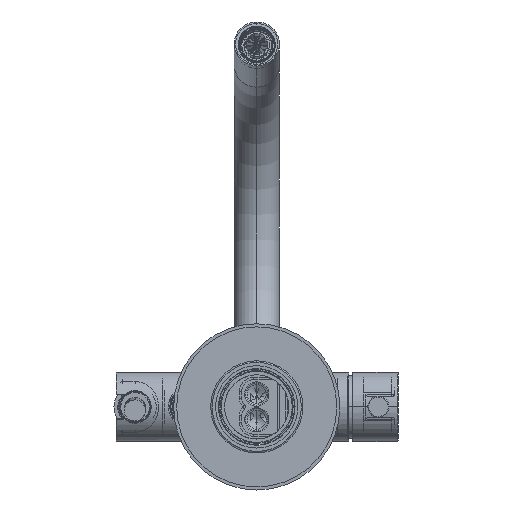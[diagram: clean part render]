
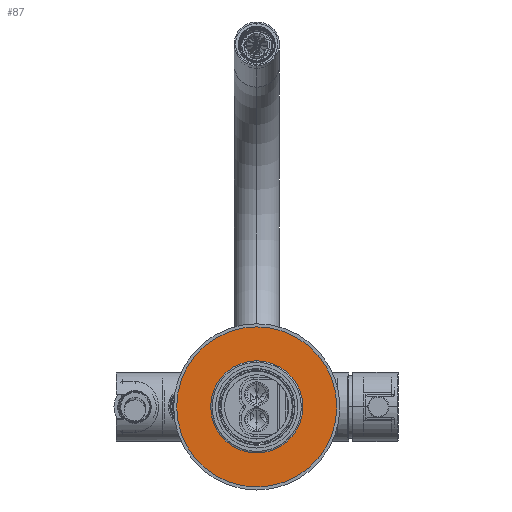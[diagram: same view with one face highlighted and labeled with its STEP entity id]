
A CAD part, front view. The second image highlights one B-rep face of the part: STEP entity #87.
In plain terms, the highlighted planar face has unit normal (0, -1, 0).
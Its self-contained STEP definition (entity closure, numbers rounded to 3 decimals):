
#87 = ADVANCED_FACE('',(#88,#108),#128,.F.);
#88 = FACE_BOUND('',#89,.F.);
#89 = EDGE_LOOP('',(#90,#101));
#90 = ORIENTED_EDGE('',*,*,#91,.T.);
#91 = EDGE_CURVE('',#92,#94,#96,.T.);
#92 = VERTEX_POINT('',#93);
#93 = CARTESIAN_POINT('',(53.,100.,0.));
#94 = VERTEX_POINT('',#95);
#95 = CARTESIAN_POINT('',(-53.,100.,0.));
#96 = CIRCLE('',#97,53.);
#97 = AXIS2_PLACEMENT_3D('',#98,#99,#100);
#98 = CARTESIAN_POINT('',(0.,100.,0.));
#99 = DIRECTION('',(-0.,1.,0.));
#100 = DIRECTION('',(1.,0.,0.));
#101 = ORIENTED_EDGE('',*,*,#102,.T.);
#102 = EDGE_CURVE('',#94,#92,#103,.T.);
#103 = CIRCLE('',#104,53.);
#104 = AXIS2_PLACEMENT_3D('',#105,#106,#107);
#105 = CARTESIAN_POINT('',(0.,100.,0.));
#106 = DIRECTION('',(0.,1.,0.));
#107 = DIRECTION('',(-1.,0.,0.));
#108 = FACE_BOUND('',#109,.F.);
#109 = EDGE_LOOP('',(#110,#121));
#110 = ORIENTED_EDGE('',*,*,#111,.T.);
#111 = EDGE_CURVE('',#112,#114,#116,.T.);
#112 = VERTEX_POINT('',#113);
#113 = CARTESIAN_POINT('',(0.,100.,30.5));
#114 = VERTEX_POINT('',#115);
#115 = CARTESIAN_POINT('',(0.,100.,-30.5));
#116 = CIRCLE('',#117,30.5);
#117 = AXIS2_PLACEMENT_3D('',#118,#119,#120);
#118 = CARTESIAN_POINT('',(0.,100.,0.));
#119 = DIRECTION('',(0.,-1.,0.));
#120 = DIRECTION('',(0.,0.,1.));
#121 = ORIENTED_EDGE('',*,*,#122,.T.);
#122 = EDGE_CURVE('',#114,#112,#123,.T.);
#123 = CIRCLE('',#124,30.5);
#124 = AXIS2_PLACEMENT_3D('',#125,#126,#127);
#125 = CARTESIAN_POINT('',(0.,100.,0.));
#126 = DIRECTION('',(0.,-1.,0.));
#127 = DIRECTION('',(0.,0.,-1.));
#128 = PLANE('',#129);
#129 = AXIS2_PLACEMENT_3D('',#130,#131,#132);
#130 = CARTESIAN_POINT('',(0.,100.,0.));
#131 = DIRECTION('',(0.,1.,0.));
#132 = DIRECTION('',(-1.,0.,0.));
